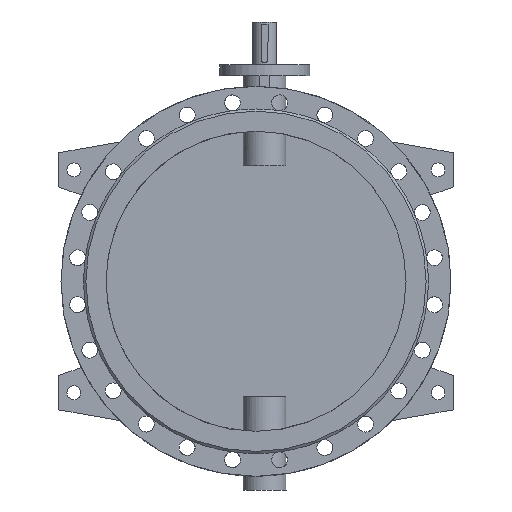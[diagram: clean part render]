
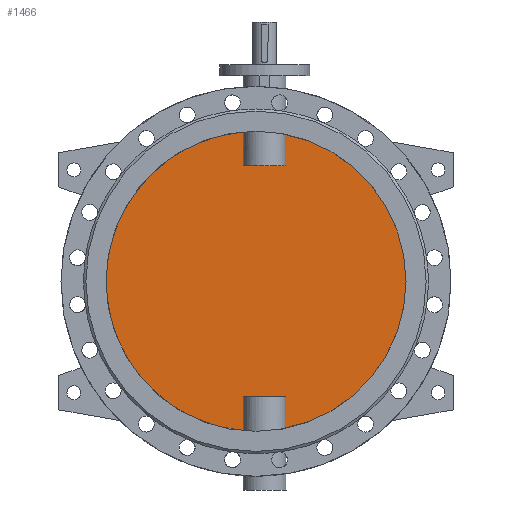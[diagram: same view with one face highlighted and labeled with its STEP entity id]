
A CAD part, front view. The second image highlights one B-rep face of the part: STEP entity #1466.
In plain terms, the highlighted planar face has unit normal (0, -1, 0).
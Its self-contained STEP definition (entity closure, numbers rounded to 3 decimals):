
#1466=ADVANCED_FACE('',(#3024),#3026,.F.);
#3024=FACE_BOUND('',#3025,.T.);
#3025=EDGE_LOOP('',(#4173,#4174,#4175,#4176,#4177,#4178,#4179,#4180));
#3026=PLANE('',#3027);
#3027=AXIS2_PLACEMENT_3D('',#3028,#3029,#3030);
#3028=CARTESIAN_POINT('',(0.,-5.,0.));
#3029=DIRECTION('',(0.,1.,0.));
#3030=DIRECTION('',(1.,0.,0.));
#4173=ORIENTED_EDGE('',*,*,#4758,.T.);
#4174=ORIENTED_EDGE('',*,*,#4764,.T.);
#4175=ORIENTED_EDGE('',*,*,#4765,.T.);
#4176=ORIENTED_EDGE('',*,*,#4766,.T.);
#4177=ORIENTED_EDGE('',*,*,#4760,.T.);
#4178=ORIENTED_EDGE('',*,*,#4767,.T.);
#4179=ORIENTED_EDGE('',*,*,#4768,.T.);
#4180=ORIENTED_EDGE('',*,*,#4769,.T.);
#4758=EDGE_CURVE('',#5693,#5694,#5695,.F.);
#4760=EDGE_CURVE('',#5698,#5696,#5699,.F.);
#4764=EDGE_CURVE('',#5694,#5705,#5706,.T.);
#4765=EDGE_CURVE('',#5705,#5707,#5708,.F.);
#4766=EDGE_CURVE('',#5707,#5698,#5709,.F.);
#4767=EDGE_CURVE('',#5696,#5710,#5711,.F.);
#4768=EDGE_CURVE('',#5710,#5712,#5713,.F.);
#4769=EDGE_CURVE('',#5712,#5693,#5714,.T.);
#5693=VERTEX_POINT('',#10291);
#5694=VERTEX_POINT('',#10292);
#5695=CIRCLE('',#10293,350.);
#5696=VERTEX_POINT('',#10297);
#5698=VERTEX_POINT('',#10339);
#5699=CIRCLE('',#10340,350.);
#5705=VERTEX_POINT('',#10462);
#5706=LINE('',#10463,#10464);
#5707=VERTEX_POINT('',#10466);
#5708=LINE('',#10467,#10468);
#5709=LINE('',#10470,#10471);
#5710=VERTEX_POINT('',#10473);
#5711=LINE('',#10474,#10475);
#5712=VERTEX_POINT('',#10477);
#5713=LINE('',#10478,#10479);
#5714=LINE('',#10481,#10482);
#10291=CARTESIAN_POINT('',(69.749,-5.,-342.98));
#10292=CARTESIAN_POINT('',(69.749,-5.,342.98));
#10293=AXIS2_PLACEMENT_3D('',#10294,#10295,#10296);
#10294=CARTESIAN_POINT('',(0.,-5.,0.));
#10295=DIRECTION('',(0.,1.,0.));
#10296=DIRECTION('',(0.199,0.,0.98));
#10297=CARTESIAN_POINT('',(-29.749,-5.,-348.733));
#10339=CARTESIAN_POINT('',(-29.749,-5.,348.733));
#10340=AXIS2_PLACEMENT_3D('',#10341,#10342,#10343);
#10341=CARTESIAN_POINT('',(0.,-5.,0.));
#10342=DIRECTION('',(0.,1.,0.));
#10343=DIRECTION('',(-0.085,0.,-0.996));
#10462=CARTESIAN_POINT('',(69.749,-5.,270.));
#10463=CARTESIAN_POINT('',(69.749,-5.,342.98));
#10464=VECTOR('',#10465,1.);
#10465=DIRECTION('',(0.,0.,-1.));
#10466=CARTESIAN_POINT('',(-29.749,-5.,270.));
#10467=CARTESIAN_POINT('',(-29.749,-5.,270.));
#10468=VECTOR('',#10469,1.);
#10469=DIRECTION('',(1.,0.,0.));
#10470=CARTESIAN_POINT('',(-29.749,-5.,348.733));
#10471=VECTOR('',#10472,1.);
#10472=DIRECTION('',(0.,0.,-1.));
#10473=CARTESIAN_POINT('',(-29.749,-5.,-270.));
#10474=CARTESIAN_POINT('',(-29.749,-5.,-270.));
#10475=VECTOR('',#10476,1.);
#10476=DIRECTION('',(0.,0.,-1.));
#10477=CARTESIAN_POINT('',(69.749,-5.,-270.));
#10478=CARTESIAN_POINT('',(69.749,-5.,-270.));
#10479=VECTOR('',#10480,1.);
#10480=DIRECTION('',(-1.,0.,0.));
#10481=CARTESIAN_POINT('',(69.749,-5.,-270.));
#10482=VECTOR('',#10483,1.);
#10483=DIRECTION('',(0.,0.,-1.));
